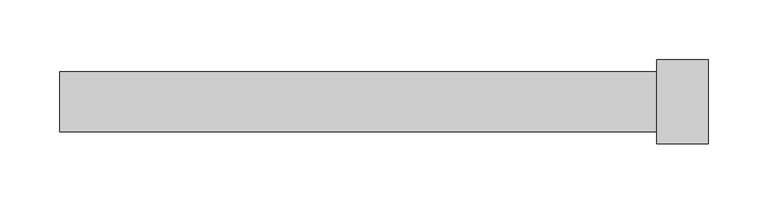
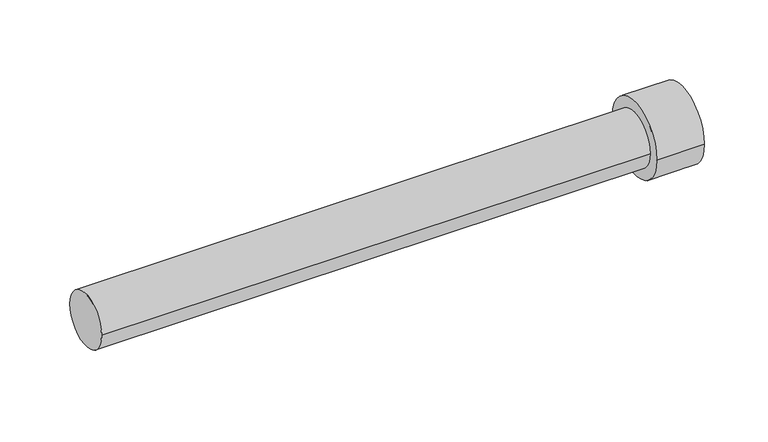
"""IFC4 building model written with IfcOpenShell, lengths in millimetres: pipe fitting geometry, NLRS_52_PIF_UN_PE overgang met krimpmof_geb : DN48-300 / ø48-315."""

from ifc_helpers import new_model, si_unit, point, frame, origin, origin_2d, place, context, project, spatial, circle_curve, trimmed, segment, composite_curve, outline, extrude, source, transform, mapped, element, save


def pipe_fitting_2d73b07b(model_context):
    return source(origin(), model_context, "Body", "SweptSolid", [
        extrude(outline(composite_curve([segment(trimmed(circle_curve(origin_2d(), 35.0), [point((-35.0, 0.0))], [point((35.0, 0.0))], False, "CARTESIAN"), True, "CONTINUOUS"), segment(trimmed(circle_curve(origin_2d(), 35.0), [point((35.0, 0.0))], [point((-35.0, 0.0))], False, "CARTESIAN"), True, "CONTINUOUS")], self_intersect=False)), frame((229.0, 0.0, 0.0), z_axis=(1.0, 0.0, 0.0), x_axis=(0.0, 1.0, 0.0)), (0.0, 0.0, 1.0), 43.0),
        extrude(outline(composite_curve([segment(trimmed(circle_curve(origin_2d(), 25.0), [point((-25.0, 0.0))], [point((25.0, 0.0))], False, "CARTESIAN"), True, "CONTINUOUS"), segment(trimmed(circle_curve(origin_2d(), 25.0), [point((25.0, 0.0))], [point((-25.0, 0.0))], False, "CARTESIAN"), True, "CONTINUOUS")], self_intersect=False)), frame((-269.0, 0.0, 0.0), z_axis=(1.0, 0.0, 0.0), x_axis=(0.0, 1.0, 0.0)), (0.0, 0.0, 1.0), 498.0),
    ])


if __name__ == "__main__":
    model = new_model("IFC4")
    model_context = context("Model", 3, world=origin())
    ifc_project = project(units=[si_unit("LENGTHUNIT", "METRE", prefix="MILLI")], contexts=[model_context])
    site = spatial("IfcSite", under=ifc_project)
    building = spatial("IfcBuilding", under=site)
    placement = place(None, origin())
    pipe_fitting_shape = pipe_fitting_2d73b07b(model_context)
    element("IfcPipeFitting", 1, ObjectType="NLRS_52_PIF_UN_PE overgang met krimpmof_geb : DN48-300 / ø48-315", at=placement, inside=building, context=model_context, shape_type="MappedRepresentation", body=[
        mapped(pipe_fitting_shape, transform((0.0, 0.0, 0.0), x_axis=(1.0, 0.0, 0.0), y_axis=(0.0, 1.0, 0.0), z_axis=(0.0, 0.0, 1.0))),
    ])
    save(model, "model.ifc")
